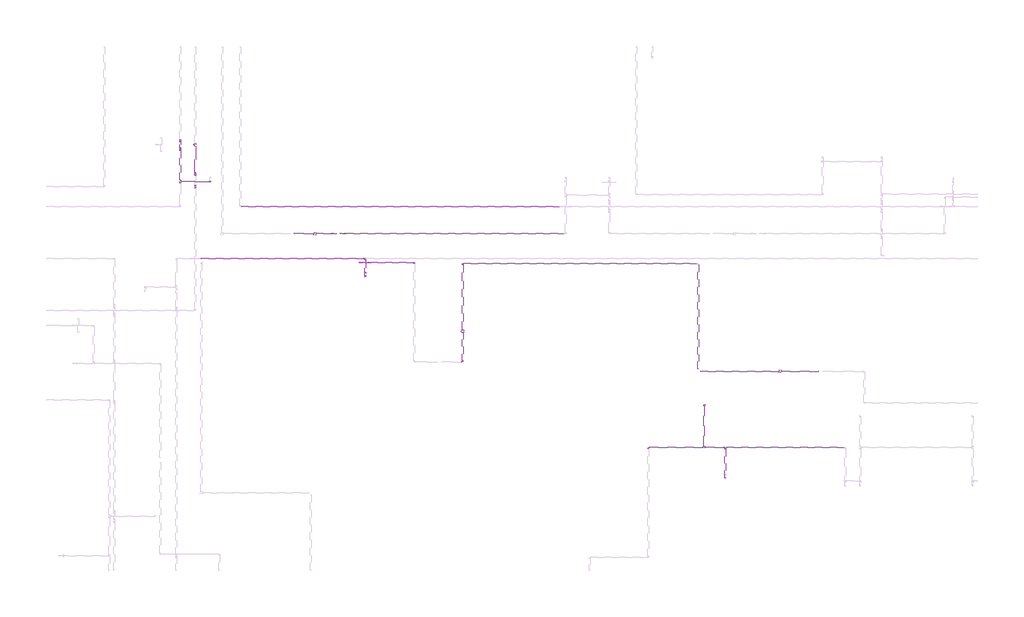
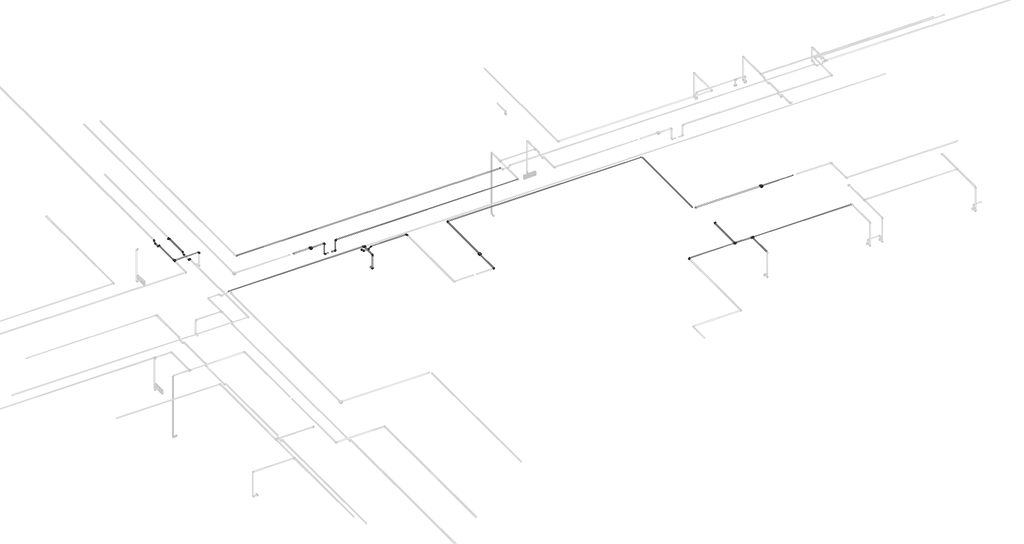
# One storey, part 25 of 40: 35 cable carrier segments, 29 cable carrier fittings, 3 alarms.
"""IFC4 building model written with IfcOpenShell, lengths in millimetres."""

from ifc_helpers import new_model, si_unit, point, frame, frame_2d, origin, place, context, project, spatial, circle_curve, trimmed, segment, composite_curve, outline, extrude, transform, mapped, element, save
from components import alarm_a2247946, cable_carrier_fitting_69f1a801, cable_carrier_fitting_8122f9af, cable_carrier_fitting_75c703e7, cable_carrier_fitting_29dedce4, cable_carrier_fitting_42b93bf5, cable_carrier_fitting_746188a3, cable_carrier_fitting_a14a04ee, cable_carrier_fitting_8fd13dfc

model = new_model("IFC4")

# Units and contexts
model_context = context("Model", 3, world=origin())
ifc_project = project(units=[si_unit("LENGTHUNIT", "METRE", prefix="MILLI")], contexts=[model_context])

# Site, building, storey
site = spatial("IfcSite", under=ifc_project)
building = spatial("IfcBuilding", under=site)
storey = spatial("IfcBuildingStorey", under=building, Name="1 этаж", Elevation=0.0)

# Alarms
placement = place(None, origin())
alarm_shape = alarm_a2247946(model_context)
element("IfcAlarm", 1, ObjectType="RBZ_ИзоляторШлейфа_Рубеж_ИЗ-1_прот.R3(плоскость) : ИЗ-1 прот.R3", at=placement, inside=storey, context=model_context, shape_type="MappedRepresentation", body=[
    mapped(alarm_shape, transform((-1014.8240021, 2144.6370072, 3200.7533502), x_axis=(1.0, 0.0, 0.0), y_axis=(0.0, 1.0, 0.0), z_axis=(0.0, 0.0, 1.0))),
])
element("IfcAlarm", 2, ObjectType="RBZ_ИзоляторШлейфа_Рубеж_ИЗ-1_прот.R3(плоскость) : ИЗ-1 прот.R3", at=placement, inside=storey, context=model_context, shape_type="MappedRepresentation", body=[
    mapped(alarm_shape, transform((-7872.3240986, 3014.6370105, 3200.7500856), x_axis=(1.0, 0.0, 0.0), y_axis=(0.0, 1.0, 0.0), z_axis=(0.0, 0.0, 1.0))),
])
element("IfcAlarm", 3, ObjectType="RBZ_ИзоляторШлейфа_Рубеж_ИЗ-1_прот.R3(плоскость) : ИЗ-1 прот.R3", at=placement, inside=storey, context=model_context, shape_type="MappedRepresentation", body=[
    mapped(alarm_shape, transform((-11062.3240021, 5122.1370105, 3200.05), x_axis=(1.0, 0.0, 0.0), y_axis=(0.0, 1.0, 0.0), z_axis=(0.0, 0.0, 1.0))),
])

# Cable carrier fittings
cable_carrier_fitting_shape = cable_carrier_fitting_69f1a801(model_context)
element("IfcCableCarrierFitting", 4, ObjectType="ADSK_Поворот_Минимальный размер : Неспецифицируемый", at=placement, inside=storey, context=model_context, shape_type="MappedRepresentation", body=[
    mapped(cable_carrier_fitting_shape, transform((-7872.3240986, 4479.5908077, 3190.0000816), x_axis=(-0.9999999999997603, 0.0, -6.924766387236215e-07), y_axis=(0.0, -0.9999999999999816, 1.9269883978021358e-07), z_axis=(-6.924766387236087e-07, 1.9269883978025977e-07, 0.9999999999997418))),
])
element("IfcCableCarrierFitting", 5, ObjectType="ADSK_Поворот_Минимальный размер : Неспецифицируемый", at=placement, inside=storey, context=model_context, shape_type="MappedRepresentation", body=[
    mapped(cable_carrier_fitting_shape, transform((-7872.3240986, 2348.1370105, 3190.0000856), x_axis=(1.0, 0.0, 0.0), y_axis=(0.0, 1.0, 0.0), z_axis=(0.0, 0.0, 1.0))),
])
element("IfcCableCarrierFitting", 6, ObjectType="ADSK_Поворот_Минимальный размер : Неспецифицируемый", at=placement, inside=storey, context=model_context, shape_type="MappedRepresentation", body=[
    mapped(cable_carrier_fitting_shape, transform((-10706.8253162, 5122.1370105, 2891.5753772), x_axis=(-1.0, 0.0, 0.0), y_axis=(0.0, 0.0, 1.0), z_axis=(0.0, 1.0, 0.0))),
])
element("IfcCableCarrierFitting", 7, ObjectType="ADSK_Поворот_Минимальный размер : Неспецифицируемый", at=placement, inside=storey, context=model_context, shape_type="MappedRepresentation", body=[
    mapped(cable_carrier_fitting_shape, transform((-10706.8253162, 5122.1370105, 3189.3), x_axis=(0.0, 0.0, 1.0), y_axis=(-1.0, 0.0, 0.0), z_axis=(0.0, -1.0, 0.0))),
])
element("IfcCableCarrierFitting", 8, ObjectType="ADSK_Поворот_Минимальный размер : Неспецифицируемый", at=placement, inside=storey, context=model_context, shape_type="MappedRepresentation", body=[
    mapped(cable_carrier_fitting_shape, transform((-10419.425705, 5122.1370105, 2891.5753772), x_axis=(1.0, 0.0, 0.0), y_axis=(0.0, 0.0, 1.0), z_axis=(0.0, -1.0, 0.0))),
])
element("IfcCableCarrierFitting", 9, ObjectType="ADSK_Поворот_Минимальный размер : Неспецифицируемый", at=placement, inside=storey, context=model_context, shape_type="MappedRepresentation", body=[
    mapped(cable_carrier_fitting_shape, transform((-10419.425705, 5122.1370105, 3189.3), x_axis=(0.0, 0.0, 1.0), y_axis=(1.0, 0.0, 0.0), z_axis=(0.0, 1.0, 0.0))),
])
element("IfcCableCarrierFitting", 10, ObjectType="ADSK_Поворот_Минимальный размер : Неспецифицируемый", at=placement, inside=storey, context=model_context, shape_type="MappedRepresentation", body=[
    mapped(cable_carrier_fitting_shape, transform((-9982.3240021, 4197.4372049, 2797.4861504), x_axis=(0.0, -1.0, 0.0), y_axis=(0.0, 0.0, 1.0), z_axis=(-1.0, 0.0, 0.0))),
])
element("IfcCableCarrierFitting", 11, ObjectType="ADSK_Поворот_Минимальный размер : Неспецифицируемый", at=placement, inside=storey, context=model_context, shape_type="MappedRepresentation", body=[
    mapped(cable_carrier_fitting_shape, transform((-9982.3240021, 4197.4372049, 3180.0), x_axis=(0.0, 0.0, 1.0), y_axis=(0.0, 1.0, 0.0), z_axis=(-1.0, 0.0, 0.0))),
])
element("IfcCableCarrierFitting", 12, ObjectType="ADSK_Поворот_Минимальный размер : Неспецифицируемый", at=placement, inside=storey, context=model_context, shape_type="MappedRepresentation", body=[
    mapped(cable_carrier_fitting_shape, transform((-8918.8240021, 4494.6370105, 3190.0000856), x_axis=(0.0, 1.0, 0.0), y_axis=(-1.0, 0.0, 0.0), z_axis=(0.0, 0.0, 1.0))),
])
element("IfcCableCarrierFitting", 13, ObjectType="ADSK_Поворот_Минимальный размер : Неспецифицируемый", at=placement, inside=storey, context=model_context, shape_type="MappedRepresentation", body=[
    mapped(cable_carrier_fitting_shape, transform((-2654.8240021, 1419.6370105, 3187.0), x_axis=(-1.0, 0.0, 0.0), y_axis=(0.0, -1.0, 0.0), z_axis=(0.0, 0.0, 1.0))),
])
element("IfcCableCarrierFitting", 14, ObjectType="ADSK_Поворот_Минимальный размер : Неспецифицируемый", at=placement, inside=storey, context=model_context, shape_type="MappedRepresentation", body=[
    mapped(cable_carrier_fitting_shape, transform((-3859.8800716, 494.6370105, 3187.0), x_axis=(-1.0, 0.0, 0.0), y_axis=(0.0, -1.0, 0.0), z_axis=(0.0, 0.0, 1.0))),
])
element("IfcCableCarrierFitting", 15, ObjectType="ADSK_Поворот_Минимальный размер : Неспецифицируемый", at=placement, inside=storey, context=model_context, shape_type="MappedRepresentation", body=[
    mapped(cable_carrier_fitting_shape, transform((-13329.8240021, 6252.4372049, 3180.0), x_axis=(0.0, 0.0, 1.0), y_axis=(-1.0, 0.0, 0.0), z_axis=(0.0, -1.0, 0.0))),
])
cable_carrier_fitting_2_shape = cable_carrier_fitting_8122f9af(model_context)
element("IfcCableCarrierFitting", 16, ObjectType="ADSK_Поворот_Минимальный размер : Неспецифицируемый", at=placement, inside=storey, context=model_context, shape_type="MappedRepresentation", body=[
    mapped(cable_carrier_fitting_2_shape, transform((-13982.3240021, 6930.5647592, 3180.0), x_axis=(0.0, 1.0, 0.0), y_axis=(0.0, 0.0, -1.0), z_axis=(-1.0, 0.0, 0.0))),
])
element("IfcCableCarrierFitting", 17, ObjectType="ADSK_Поворот_Минимальный размер : Неспецифицируемый", at=placement, inside=storey, context=model_context, shape_type="MappedRepresentation", body=[
    mapped(cable_carrier_fitting_2_shape, transform((-13982.3240021, 6980.5647592, 3130.0), x_axis=(0.0, 0.707106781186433, -0.7071067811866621), y_axis=(0.0, 0.7071067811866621, 0.707106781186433), z_axis=(1.0, 0.0, 0.0))),
])
element("IfcCableCarrierFitting", 18, ObjectType="ADSK_Поворот_Минимальный размер : Неспецифицируемый", at=placement, inside=storey, context=model_context, shape_type="MappedRepresentation", body=[
    mapped(cable_carrier_fitting_2_shape, transform((-13982.3240021, 7113.7093017, 3130.0), x_axis=(0.0, 1.0, 0.0), y_axis=(0.0, 0.0, 1.0), z_axis=(1.0, 0.0, 0.0))),
])
element("IfcCableCarrierFitting", 19, ObjectType="ADSK_Поворот_Минимальный размер : Неспецифицируемый", at=placement, inside=storey, context=model_context, shape_type="MappedRepresentation", body=[
    mapped(cable_carrier_fitting_2_shape, transform((-13982.3240021, 7163.7093017, 3180.0), x_axis=(0.0, 0.7071067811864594, 0.7071067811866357), y_axis=(0.0, 0.7071067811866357, -0.7071067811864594), z_axis=(-1.0, 0.0, 0.0))),
])
element("IfcCableCarrierFitting", 20, ObjectType="ADSK_Поворот_Минимальный размер : Неспецифицируемый", at=placement, inside=storey, context=model_context, shape_type="MappedRepresentation", body=[
    mapped(cable_carrier_fitting_2_shape, transform((-9915.7517309, 4494.6370105, 3140.0000856), x_axis=(-0.707106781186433, 0.0, -0.7071067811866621), y_axis=(-0.7071067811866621, 0.0, 0.707106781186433), z_axis=(0.0, 1.0, 0.0))),
])
element("IfcCableCarrierFitting", 21, ObjectType="ADSK_Поворот_Минимальный размер : Неспецифицируемый", at=placement, inside=storey, context=model_context, shape_type="MappedRepresentation", body=[
    mapped(cable_carrier_fitting_2_shape, transform((-10048.8962734, 4494.6370105, 3140.0000856), x_axis=(-1.0, 0.0, 0.0), y_axis=(0.0, 0.0, 1.0), z_axis=(0.0, 1.0, 0.0))),
])
element("IfcCableCarrierFitting", 22, ObjectType="ADSK_Поворот_Минимальный размер : Неспецифицируемый", at=placement, inside=storey, context=model_context, shape_type="MappedRepresentation", body=[
    mapped(cable_carrier_fitting_2_shape, transform((-9865.7517309, 4494.6370105, 3190.0000856), x_axis=(0.7071067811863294, 0.0, 0.7071067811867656), y_axis=(0.7071067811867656, 0.0, -0.7071067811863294), z_axis=(0.0, 1.0, 0.0))),
])
cable_carrier_fitting_3_shape = cable_carrier_fitting_75c703e7(model_context)
element("IfcCableCarrierFitting", 23, ObjectType="ADSK_Поворот_Минимальный размер : Неспецифицируемый", at=placement, inside=storey, context=model_context, shape_type="MappedRepresentation", body=[
    mapped(cable_carrier_fitting_3_shape, transform((-13652.3240113, 6163.0811795, 3139.901458), x_axis=(0.0, 0.7071067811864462, -0.7071067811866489), y_axis=(0.0, 0.7071067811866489, 0.7071067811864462), z_axis=(1.0, 0.0, 0.0))),
])
cable_carrier_fitting_4_shape = cable_carrier_fitting_29dedce4(model_context)
element("IfcCableCarrierFitting", 24, ObjectType="ADSK_Поворот_Минимальный размер : Неспецифицируемый", at=placement, inside=storey, context=model_context, shape_type="MappedRepresentation", body=[
    mapped(cable_carrier_fitting_4_shape, transform((-13652.3240113, 6385.7383006, 3139.5554765), x_axis=(0.0, 0.9999987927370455, -0.0015538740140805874), y_axis=(0.0, 0.0015538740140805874, 0.9999987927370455), z_axis=(1.0, 0.0, 0.0))),
])
cable_carrier_fitting_5_shape = cable_carrier_fitting_42b93bf5(model_context)
element("IfcCableCarrierFitting", 25, ObjectType="ADSK_Поворот_Минимальный размер : Неспецифицируемый", at=placement, inside=storey, context=model_context, shape_type="MappedRepresentation", body=[
    mapped(cable_carrier_fitting_5_shape, transform((-13652.3240113, 6435.3963596, 3189.2428534), x_axis=(0.0, 0.7068980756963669, 0.7073154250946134), y_axis=(0.0, 0.7073154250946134, -0.7068980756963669), z_axis=(-1.0, 0.0, 0.0))),
])
cable_carrier_fitting_6_shape = cable_carrier_fitting_746188a3(model_context)
element("IfcCableCarrierFitting", 26, ObjectType="ADSK_Поворот_Минимальный размер : Неспецифицируемый", at=placement, inside=storey, context=model_context, shape_type="MappedRepresentation", body=[
    mapped(cable_carrier_fitting_6_shape, transform((-13652.3240113, 6113.5934916, 3189.389146), x_axis=(0.0, -0.7071067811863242, 0.707106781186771), y_axis=(0.0, -0.707106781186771, -0.7071067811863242), z_axis=(1.0, 0.0, 0.0))),
])
cable_carrier_fitting_7_shape = cable_carrier_fitting_a14a04ee(model_context)
element("IfcCableCarrierFitting", 27, ObjectType="ADSK_Поворот_Минимальный размер : Неспецифицируемый", at=placement, inside=storey, context=model_context, shape_type="MappedRepresentation", body=[
    mapped(cable_carrier_fitting_7_shape, transform((-10098.8962734, 4494.6370105, 3190.0000856), x_axis=(-0.7071067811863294, 0.0, 0.7071067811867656), y_axis=(-0.7071067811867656, 0.0, -0.7071067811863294), z_axis=(0.0, -1.0, 0.0))),
])
cable_carrier_fitting_8_shape = cable_carrier_fitting_8fd13dfc(model_context)
element("IfcCableCarrierFitting", 28, ObjectType="ADSK_Тройник : ПВХ", at=placement, inside=storey, context=model_context, shape_type="MappedRepresentation", body=[
    mapped(cable_carrier_fitting_8_shape, transform((-13652.3240113, 7047.1370299, 3189.2381641), x_axis=(0.0, -0.999999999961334, 8.793864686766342e-06), y_axis=(1.0000000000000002, 0.0, 0.0), z_axis=(0.0, 8.793864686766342e-06, 0.999999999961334))),
])
element("IfcCableCarrierFitting", 29, ObjectType="ADSK_Тройник : ПВХ", at=placement, inside=storey, context=model_context, shape_type="MappedRepresentation", body=[
    mapped(cable_carrier_fitting_8_shape, transform((-2197.3240021, 494.6370105, 3187.0), x_axis=(1.0, 0.0, 0.0), y_axis=(0.0, 1.0, 0.0), z_axis=(0.0, 0.0, 1.0))),
])
element("IfcCableCarrierFitting", 30, ObjectType="ADSK_Тройник : ПВХ", at=placement, inside=storey, context=model_context, shape_type="MappedRepresentation", body=[
    mapped(cable_carrier_fitting_8_shape, transform((-9982.3240021, 4582.0648158, 3180.0), x_axis=(1.0, 0.0, 0.0), y_axis=(0.0, 1.0, 0.0), z_axis=(0.0, 0.0, 1.0))),
])
element("IfcCableCarrierFitting", 31, ObjectType="ADSK_Тройник : ПВХ", at=placement, inside=storey, context=model_context, shape_type="MappedRepresentation", body=[
    mapped(cable_carrier_fitting_8_shape, transform((-2654.8240021, 494.6370105, 3187.0), x_axis=(-1.0, 0.0, 0.0), y_axis=(0.0, -1.0, 0.0), z_axis=(0.0, 0.0, 1.0))),
])
element("IfcCableCarrierFitting", 32, ObjectType="ADSK_Тройник : ПВХ", at=placement, inside=storey, context=model_context, shape_type="MappedRepresentation", body=[
    mapped(cable_carrier_fitting_8_shape, transform((-13982.3240021, 6252.4372049, 3180.0), x_axis=(0.0, 1.0, 0.0), y_axis=(-1.0, 0.0, 0.0), z_axis=(0.0, 0.0, 1.0))),
])

# Cable carrier segments
element("IfcCableCarrierSegment", 33, ObjectType="Гофрированная труба", at=placement, inside=storey, context=model_context, shape_type="SweptSolid", body=[
    extrude(outline(composite_curve([segment(trimmed(circle_curve(frame_2d((3190.0000856, -7872.3240986)), 10.0), [point((3190.0000787, -7882.3240986))], [point((3180.0000856, -7872.3240917))], False, "CARTESIAN"), True, "CONTINUOUS"), segment(trimmed(circle_curve(frame_2d((3190.0000856, -7872.3240986)), 10.0), [point((3180.0000856, -7872.3240917))], [point((3190.0000926, -7862.3240986))], False, "CARTESIAN"), True, "CONTINUOUS"), segment(trimmed(circle_curve(frame_2d((3190.0000856, -7872.3240986)), 10.0), [point((3190.0000926, -7862.3240986))], [point((3200.0000856, -7872.3241056))], False, "CARTESIAN"), True, "CONTINUOUS"), segment(trimmed(circle_curve(frame_2d((3190.0000856, -7872.3240986)), 10.0), [point((3200.0000856, -7872.3241056))], [point((3190.0000787, -7882.3240986))], False, "CARTESIAN"), True, "CONTINUOUS")], self_intersect=False)), frame((0.0, 3040.6370105, 0.0), z_axis=(0.0, 1.0, 0.0), x_axis=(0.0, 0.0, 1.0)), (0.0, 0.0, 1.0), 1417.9537972),
])
element("IfcCableCarrierSegment", 34, ObjectType="Гофрированная труба", at=placement, inside=storey, context=model_context, shape_type="SweptSolid", body=[
    extrude(outline(composite_curve([segment(trimmed(circle_curve(frame_2d((3190.0033502, -2782.8240025)), 10.0), [point((3190.0033433, -2792.8240025))], [point((3180.0033502, -2782.8239956))], False, "CARTESIAN"), True, "CONTINUOUS"), segment(trimmed(circle_curve(frame_2d((3190.0033502, -2782.8240025)), 10.0), [point((3180.0033502, -2782.8239956))], [point((3190.0033571, -2772.8240025))], False, "CARTESIAN"), True, "CONTINUOUS"), segment(trimmed(circle_curve(frame_2d((3190.0033502, -2782.8240025)), 10.0), [point((3190.0033571, -2772.8240025))], [point((3200.0033502, -2782.8240095))], False, "CARTESIAN"), True, "CONTINUOUS"), segment(trimmed(circle_curve(frame_2d((3190.0033502, -2782.8240025)), 10.0), [point((3200.0033502, -2782.8240095))], [point((3190.0033433, -2792.8240025))], False, "CARTESIAN"), True, "CONTINUOUS")], self_intersect=False)), frame((0.0, 2191.1370072, 0.0), z_axis=(0.0, 1.0, 0.0), x_axis=(0.0, 0.0, 1.0)), (0.0, 0.0, 1.0), 2267.4538005),
])
element("IfcCableCarrierSegment", 35, ObjectType="Гофрированная труба", at=placement, inside=storey, context=model_context, shape_type="SweptSolid", body=[
    extrude(outline(composite_curve([segment(trimmed(circle_curve(frame_2d((0.0, 10.0)), 10.0), [point((-10.0, 10.0))], [point((0.0, 20.0))], False, "CARTESIAN"), True, "CONTINUOUS"), segment(trimmed(circle_curve(frame_2d((0.0, 10.0)), 10.0), [point((0.0, 20.0))], [point((10.0, 10.0))], False, "CARTESIAN"), True, "CONTINUOUS"), segment(trimmed(circle_curve(frame_2d((0.0, 10.0)), 10.0), [point((10.0, 10.0))], [point((0.0, 0.0))], False, "CARTESIAN"), True, "CONTINUOUS"), segment(trimmed(circle_curve(frame_2d((0.0, 10.0)), 10.0), [point((0.0, 0.0))], [point((-10.0, 10.0))], False, "CARTESIAN"), True, "CONTINUOUS")], self_intersect=False)), frame((-7851.3240917, 4479.5908077, 3180.0000961), z_axis=(0.9999999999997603, 0.0, 6.924766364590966e-07), x_axis=(0.0, 1.0, 0.0)), (0.0, 0.0, 1.0), 5047.5000961),
])
element("IfcCableCarrierSegment", 36, ObjectType="Гофрированная труба", at=placement, inside=storey, context=model_context, shape_type="SweptSolid", body=[
    extrude(outline(composite_curve([segment(trimmed(circle_curve(frame_2d((2144.6370072, 3190.0033502)), 10.0), [point((2134.6370072, 3190.0033502))], [point((2144.6370072, 3200.0033502))], False, "CARTESIAN"), True, "CONTINUOUS"), segment(trimmed(circle_curve(frame_2d((2144.6370072, 3190.0033502)), 10.0), [point((2144.6370072, 3200.0033502))], [point((2154.6370072, 3190.0033502))], False, "CARTESIAN"), True, "CONTINUOUS"), segment(trimmed(circle_curve(frame_2d((2144.6370072, 3190.0033502)), 10.0), [point((2154.6370072, 3190.0033502))], [point((2144.6370072, 3180.0033502))], False, "CARTESIAN"), True, "CONTINUOUS"), segment(trimmed(circle_curve(frame_2d((2144.6370072, 3190.0033502)), 10.0), [point((2144.6370072, 3180.0033502))], [point((2134.6370072, 3190.0033502))], False, "CARTESIAN"), True, "CONTINUOUS")], self_intersect=False)), frame((-2736.3240025, 0.0, 0.0), z_axis=(1.0, 0.0, 0.0), x_axis=(0.0, 1.0, 0.0)), (0.0, 0.0, 1.0), 1695.5000004),
])
element("IfcCableCarrierSegment", 37, ObjectType="Гофрированная труба", at=placement, inside=storey, context=model_context, shape_type="SweptSolid", body=[
    extrude(outline(composite_curve([segment(trimmed(circle_curve(frame_2d((2144.6370072, 3190.0033502)), 10.0), [point((2154.6370072, 3190.0033502))], [point((2144.6370072, 3180.0033502))], False, "CARTESIAN"), True, "CONTINUOUS"), segment(trimmed(circle_curve(frame_2d((2144.6370072, 3190.0033502)), 10.0), [point((2144.6370072, 3180.0033502))], [point((2134.6370072, 3190.0033502))], False, "CARTESIAN"), True, "CONTINUOUS"), segment(trimmed(circle_curve(frame_2d((2144.6370072, 3190.0033502)), 10.0), [point((2134.6370072, 3190.0033502))], [point((2144.6370072, 3200.0033502))], False, "CARTESIAN"), True, "CONTINUOUS"), segment(trimmed(circle_curve(frame_2d((2144.6370072, 3190.0033502)), 10.0), [point((2144.6370072, 3200.0033502))], [point((2154.6370072, 3190.0033502))], False, "CARTESIAN"), True, "CONTINUOUS")], self_intersect=False)), frame((-988.8240021, 0.0, 0.0), z_axis=(1.0, 0.0, 0.0), x_axis=(0.0, 1.0, 0.0)), (0.0, 0.0, 1.0), 807.5),
])
element("IfcCableCarrierSegment", 38, ObjectType="Гофрированная труба", at=placement, inside=storey, context=model_context, shape_type="SweptSolid", body=[
    extrude(outline(composite_curve([segment(trimmed(circle_curve(frame_2d((4494.6370105, 3140.0000856)), 10.0), [point((4504.6370105, 3140.0000856))], [point((4494.6370105, 3130.0000856))], False, "CARTESIAN"), True, "CONTINUOUS"), segment(trimmed(circle_curve(frame_2d((4494.6370105, 3140.0000856)), 10.0), [point((4494.6370105, 3130.0000856))], [point((4484.6370105, 3140.0000856))], False, "CARTESIAN"), True, "CONTINUOUS"), segment(trimmed(circle_curve(frame_2d((4494.6370105, 3140.0000856)), 10.0), [point((4484.6370105, 3140.0000856))], [point((4494.6370105, 3150.0000856))], False, "CARTESIAN"), True, "CONTINUOUS"), segment(trimmed(circle_curve(frame_2d((4494.6370105, 3140.0000856)), 10.0), [point((4494.6370105, 3150.0000856))], [point((4504.6370105, 3140.0000856))], False, "CARTESIAN"), True, "CONTINUOUS")], self_intersect=False)), frame((-10039.6120021, 0.0, 0.0), z_axis=(1.0, 0.0, 0.0), x_axis=(0.0, 1.0, 0.0)), (0.0, 0.0, 1.0), 114.576),
])
element("IfcCableCarrierSegment", 39, ObjectType="Гофрированная труба", at=placement, inside=storey, context=model_context, shape_type="SweptSolid", body=[
    extrude(outline(composite_curve([segment(trimmed(circle_curve(frame_2d((3190.0000856, -7872.3240986)), 10.0), [point((3190.0000856, -7862.3240986))], [point((3200.0000856, -7872.3240986))], False, "CARTESIAN"), True, "CONTINUOUS"), segment(trimmed(circle_curve(frame_2d((3190.0000856, -7872.3240986)), 10.0), [point((3200.0000856, -7872.3240986))], [point((3190.0000856, -7882.3240986))], False, "CARTESIAN"), True, "CONTINUOUS"), segment(trimmed(circle_curve(frame_2d((3190.0000856, -7872.3240986)), 10.0), [point((3190.0000856, -7882.3240986))], [point((3180.0000856, -7872.3240986))], False, "CARTESIAN"), True, "CONTINUOUS"), segment(trimmed(circle_curve(frame_2d((3190.0000856, -7872.3240986)), 10.0), [point((3180.0000856, -7872.3240986))], [point((3190.0000856, -7862.3240986))], False, "CARTESIAN"), True, "CONTINUOUS")], self_intersect=False)), frame((0.0, 2369.1370105, 0.0), z_axis=(0.0, 1.0, 0.0), x_axis=(0.0, 0.0, 1.0)), (0.0, 0.0, 1.0), 619.5),
])
element("IfcCableCarrierSegment", 40, ObjectType="Гофрированная труба", at=placement, inside=storey, context=model_context, shape_type="SweptSolid", body=[
    extrude(outline(composite_curve([segment(trimmed(circle_curve(frame_2d((5122.1370105, 3189.3)), 10.0), [point((5132.1370105, 3189.3))], [point((5122.1370105, 3179.3))], False, "CARTESIAN"), True, "CONTINUOUS"), segment(trimmed(circle_curve(frame_2d((5122.1370105, 3189.3)), 10.0), [point((5122.1370105, 3179.3))], [point((5112.1370105, 3189.3))], False, "CARTESIAN"), True, "CONTINUOUS"), segment(trimmed(circle_curve(frame_2d((5122.1370105, 3189.3)), 10.0), [point((5112.1370105, 3189.3))], [point((5122.1370105, 3199.3))], False, "CARTESIAN"), True, "CONTINUOUS"), segment(trimmed(circle_curve(frame_2d((5122.1370105, 3189.3)), 10.0), [point((5122.1370105, 3199.3))], [point((5132.1370105, 3189.3))], False, "CARTESIAN"), True, "CONTINUOUS")], self_intersect=False)), frame((-11518.3240021, 0.0, 0.0), z_axis=(1.0, 0.0, 0.0), x_axis=(0.0, 1.0, 0.0)), (0.0, 0.0, 1.0), 430.0),
])
element("IfcCableCarrierSegment", 41, ObjectType="Гофрированная труба", at=placement, inside=storey, context=model_context, shape_type="SweptSolid", body=[
    extrude(outline(composite_curve([segment(trimmed(circle_curve(frame_2d((5122.1370105, 3189.3)), 10.0), [point((5132.1370105, 3189.3))], [point((5122.1370105, 3179.3))], False, "CARTESIAN"), True, "CONTINUOUS"), segment(trimmed(circle_curve(frame_2d((5122.1370105, 3189.3)), 10.0), [point((5122.1370105, 3179.3))], [point((5112.1370105, 3189.3))], False, "CARTESIAN"), True, "CONTINUOUS"), segment(trimmed(circle_curve(frame_2d((5122.1370105, 3189.3)), 10.0), [point((5112.1370105, 3189.3))], [point((5122.1370105, 3199.3))], False, "CARTESIAN"), True, "CONTINUOUS"), segment(trimmed(circle_curve(frame_2d((5122.1370105, 3189.3)), 10.0), [point((5122.1370105, 3199.3))], [point((5132.1370105, 3189.3))], False, "CARTESIAN"), True, "CONTINUOUS")], self_intersect=False)), frame((-11036.3240021, 0.0, 0.0), z_axis=(1.0, 0.0, 0.0), x_axis=(0.0, 1.0, 0.0)), (0.0, 0.0, 1.0), 308.4986859),
])
element("IfcCableCarrierSegment", 42, ObjectType="Гофрированная труба", at=placement, inside=storey, context=model_context, shape_type="SweptSolid", body=[
    extrude(outline(composite_curve([segment(trimmed(circle_curve(frame_2d((5122.1370105, 2891.5753772)), 10.0), [point((5132.1370105, 2891.5753772))], [point((5122.1370105, 2881.5753772))], False, "CARTESIAN"), True, "CONTINUOUS"), segment(trimmed(circle_curve(frame_2d((5122.1370105, 2891.5753772)), 10.0), [point((5122.1370105, 2881.5753772))], [point((5112.1370105, 2891.5753772))], False, "CARTESIAN"), True, "CONTINUOUS"), segment(trimmed(circle_curve(frame_2d((5122.1370105, 2891.5753772)), 10.0), [point((5112.1370105, 2891.5753772))], [point((5122.1370105, 2901.5753772))], False, "CARTESIAN"), True, "CONTINUOUS"), segment(trimmed(circle_curve(frame_2d((5122.1370105, 2891.5753772)), 10.0), [point((5122.1370105, 2901.5753772))], [point((5132.1370105, 2891.5753772))], False, "CARTESIAN"), True, "CONTINUOUS")], self_intersect=False)), frame((-10685.8253162, 0.0, 0.0), z_axis=(1.0, 0.0, 0.0), x_axis=(0.0, 1.0, 0.0)), (0.0, 0.0, 1.0), 76.1998056),
])
element("IfcCableCarrierSegment", 43, ObjectType="Гофрированная труба", at=placement, inside=storey, context=model_context, shape_type="SweptSolid", body=[
    extrude(outline(composite_curve([segment(trimmed(circle_curve(frame_2d((-10706.8253162, 5122.1370105)), 10.0), [point((-10716.8253162, 5122.1370105))], [point((-10706.8253162, 5132.1370105))], False, "CARTESIAN"), True, "CONTINUOUS"), segment(trimmed(circle_curve(frame_2d((-10706.8253162, 5122.1370105)), 10.0), [point((-10706.8253162, 5132.1370105))], [point((-10696.8253162, 5122.1370105))], False, "CARTESIAN"), True, "CONTINUOUS"), segment(trimmed(circle_curve(frame_2d((-10706.8253162, 5122.1370105)), 10.0), [point((-10696.8253162, 5122.1370105))], [point((-10706.8253162, 5112.1370105))], False, "CARTESIAN"), True, "CONTINUOUS"), segment(trimmed(circle_curve(frame_2d((-10706.8253162, 5122.1370105)), 10.0), [point((-10706.8253162, 5112.1370105))], [point((-10716.8253162, 5122.1370105))], False, "CARTESIAN"), True, "CONTINUOUS")], self_intersect=False)), frame((0.0, 0.0, 2912.5753772), z_axis=(0.0, 0.0, 1.0), x_axis=(1.0, 0.0, 0.0)), (0.0, 0.0, 1.0), 255.7246228),
])
element("IfcCableCarrierSegment", 44, ObjectType="Гофрированная труба", at=placement, inside=storey, context=model_context, shape_type="SweptSolid", body=[
    extrude(outline(composite_curve([segment(trimmed(circle_curve(frame_2d((5122.1370105, 2891.5753772)), 10.0), [point((5112.1370105, 2891.5753772))], [point((5122.1370105, 2901.5753772))], False, "CARTESIAN"), True, "CONTINUOUS"), segment(trimmed(circle_curve(frame_2d((5122.1370105, 2891.5753772)), 10.0), [point((5122.1370105, 2901.5753772))], [point((5132.1370105, 2891.5753772))], False, "CARTESIAN"), True, "CONTINUOUS"), segment(trimmed(circle_curve(frame_2d((5122.1370105, 2891.5753772)), 10.0), [point((5132.1370105, 2891.5753772))], [point((5122.1370105, 2881.5753772))], False, "CARTESIAN"), True, "CONTINUOUS"), segment(trimmed(circle_curve(frame_2d((5122.1370105, 2891.5753772)), 10.0), [point((5122.1370105, 2881.5753772))], [point((5112.1370105, 2891.5753772))], False, "CARTESIAN"), True, "CONTINUOUS")], self_intersect=False)), frame((-10516.6255106, 0.0, 0.0), z_axis=(1.0, 0.0, 0.0), x_axis=(0.0, 1.0, 0.0)), (0.0, 0.0, 1.0), 76.1998056),
])
element("IfcCableCarrierSegment", 45, ObjectType="Гофрированная труба", at=placement, inside=storey, context=model_context, shape_type="SweptSolid", body=[
    extrude(outline(composite_curve([segment(trimmed(circle_curve(frame_2d((-10419.425705, 5122.1370105)), 10.0), [point((-10429.425705, 5122.1370105))], [point((-10419.425705, 5132.1370105))], False, "CARTESIAN"), True, "CONTINUOUS"), segment(trimmed(circle_curve(frame_2d((-10419.425705, 5122.1370105)), 10.0), [point((-10419.425705, 5132.1370105))], [point((-10409.425705, 5122.1370105))], False, "CARTESIAN"), True, "CONTINUOUS"), segment(trimmed(circle_curve(frame_2d((-10419.425705, 5122.1370105)), 10.0), [point((-10409.425705, 5122.1370105))], [point((-10419.425705, 5112.1370105))], False, "CARTESIAN"), True, "CONTINUOUS"), segment(trimmed(circle_curve(frame_2d((-10419.425705, 5122.1370105)), 10.0), [point((-10419.425705, 5112.1370105))], [point((-10429.425705, 5122.1370105))], False, "CARTESIAN"), True, "CONTINUOUS")], self_intersect=False)), frame((0.0, 0.0, 2912.5753772), z_axis=(0.0, 0.0, 1.0), x_axis=(1.0, 0.0, 0.0)), (0.0, 0.0, 1.0), 255.7246228),
])
element("IfcCableCarrierSegment", 46, ObjectType="Гофрированная труба", at=placement, inside=storey, context=model_context, shape_type="SweptSolid", body=[
    extrude(outline(composite_curve([segment(trimmed(circle_curve(frame_2d((5122.1370105, 3189.3)), 10.0), [point((5112.1370105, 3189.3))], [point((5122.1370105, 3199.3))], False, "CARTESIAN"), True, "CONTINUOUS"), segment(trimmed(circle_curve(frame_2d((5122.1370105, 3189.3)), 10.0), [point((5122.1370105, 3199.3))], [point((5132.1370105, 3189.3))], False, "CARTESIAN"), True, "CONTINUOUS"), segment(trimmed(circle_curve(frame_2d((5122.1370105, 3189.3)), 10.0), [point((5132.1370105, 3189.3))], [point((5122.1370105, 3179.3))], False, "CARTESIAN"), True, "CONTINUOUS"), segment(trimmed(circle_curve(frame_2d((5122.1370105, 3189.3)), 10.0), [point((5122.1370105, 3179.3))], [point((5112.1370105, 3189.3))], False, "CARTESIAN"), True, "CONTINUOUS")], self_intersect=False)), frame((-10398.425705, 0.0, 0.0), z_axis=(1.0, 0.0, 0.0), x_axis=(0.0, 1.0, 0.0)), (0.0, 0.0, 1.0), 4737.6017029),
])
element("IfcCableCarrierSegment", 47, ObjectType="Гофрированная труба", at=placement, inside=storey, context=model_context, shape_type="SweptSolid", body=[
    extrude(outline(composite_curve([segment(trimmed(circle_curve(frame_2d((3187.0, -2197.3240021)), 10.0), [point((3187.0, -2187.3240021))], [point((3197.0, -2197.3240021))], False, "CARTESIAN"), True, "CONTINUOUS"), segment(trimmed(circle_curve(frame_2d((3187.0, -2197.3240021)), 10.0), [point((3197.0, -2197.3240021))], [point((3187.0, -2207.3240021))], False, "CARTESIAN"), True, "CONTINUOUS"), segment(trimmed(circle_curve(frame_2d((3187.0, -2197.3240021)), 10.0), [point((3187.0, -2207.3240021))], [point((3177.0, -2197.3240021))], False, "CARTESIAN"), True, "CONTINUOUS"), segment(trimmed(circle_curve(frame_2d((3187.0, -2197.3240021)), 10.0), [point((3177.0, -2197.3240021))], [point((3187.0, -2187.3240021))], False, "CARTESIAN"), True, "CONTINUOUS")], self_intersect=False)), frame((0.0, -158.5627951, 0.0), z_axis=(0.0, 1.0, 0.0), x_axis=(0.0, 0.0, 1.0)), (0.0, 0.0, 1.0), 623.1998056),
])
element("IfcCableCarrierSegment", 48, ObjectType="Гофрированная труба", at=placement, inside=storey, context=model_context, shape_type="SweptSolid", body=[
    extrude(outline(composite_curve([segment(trimmed(circle_curve(frame_2d((494.6370105, 3187.0)), 10.0), [point((504.6370105, 3187.0))], [point((494.6370105, 3177.0))], False, "CARTESIAN"), True, "CONTINUOUS"), segment(trimmed(circle_curve(frame_2d((494.6370105, 3187.0)), 10.0), [point((494.6370105, 3177.0))], [point((484.6370105, 3187.0))], False, "CARTESIAN"), True, "CONTINUOUS"), segment(trimmed(circle_curve(frame_2d((494.6370105, 3187.0)), 10.0), [point((484.6370105, 3187.0))], [point((494.6370105, 3197.0))], False, "CARTESIAN"), True, "CONTINUOUS"), segment(trimmed(circle_curve(frame_2d((494.6370105, 3187.0)), 10.0), [point((494.6370105, 3197.0))], [point((504.6370105, 3187.0))], False, "CARTESIAN"), True, "CONTINUOUS")], self_intersect=False)), frame((-2167.3240021, 0.0, 0.0), z_axis=(1.0, 0.0, 0.0), x_axis=(0.0, 1.0, 0.0)), (0.0, 0.0, 1.0), 2549.0),
])
element("IfcCableCarrierSegment", 49, ObjectType="Гофрированная труба", at=placement, inside=storey, context=model_context, shape_type="SweptSolid", body=[
    extrude(outline(composite_curve([segment(trimmed(circle_curve(frame_2d((3187.0, -2654.8240021)), 10.0), [point((3187.0, -2664.8240021))], [point((3177.0, -2654.8240021))], False, "CARTESIAN"), True, "CONTINUOUS"), segment(trimmed(circle_curve(frame_2d((3187.0, -2654.8240021)), 10.0), [point((3177.0, -2654.8240021))], [point((3187.0, -2644.8240021))], False, "CARTESIAN"), True, "CONTINUOUS"), segment(trimmed(circle_curve(frame_2d((3187.0, -2654.8240021)), 10.0), [point((3187.0, -2644.8240021))], [point((3197.0, -2654.8240021))], False, "CARTESIAN"), True, "CONTINUOUS"), segment(trimmed(circle_curve(frame_2d((3187.0, -2654.8240021)), 10.0), [point((3197.0, -2654.8240021))], [point((3187.0, -2664.8240021))], False, "CARTESIAN"), True, "CONTINUOUS")], self_intersect=False)), frame((0.0, 524.6370105, 0.0), z_axis=(0.0, 1.0, 0.0), x_axis=(0.0, 0.0, 1.0)), (0.0, 0.0, 1.0), 874.0),
])
element("IfcCableCarrierSegment", 50, ObjectType="Гофрированная труба", at=placement, inside=storey, context=model_context, shape_type="SweptSolid", body=[
    extrude(outline(composite_curve([segment(trimmed(circle_curve(frame_2d((494.6370105, 3187.0)), 10.0), [point((484.6370105, 3187.0))], [point((494.6370105, 3197.0))], False, "CARTESIAN"), True, "CONTINUOUS"), segment(trimmed(circle_curve(frame_2d((494.6370105, 3187.0)), 10.0), [point((494.6370105, 3197.0))], [point((504.6370105, 3187.0))], False, "CARTESIAN"), True, "CONTINUOUS"), segment(trimmed(circle_curve(frame_2d((494.6370105, 3187.0)), 10.0), [point((504.6370105, 3187.0))], [point((494.6370105, 3177.0))], False, "CARTESIAN"), True, "CONTINUOUS"), segment(trimmed(circle_curve(frame_2d((494.6370105, 3187.0)), 10.0), [point((494.6370105, 3177.0))], [point((484.6370105, 3187.0))], False, "CARTESIAN"), True, "CONTINUOUS")], self_intersect=False)), frame((-2624.8240021, 0.0, 0.0), z_axis=(1.0, 0.0, 0.0), x_axis=(0.0, 1.0, 0.0)), (0.0, 0.0, 1.0), 397.5),
])
element("IfcCableCarrierSegment", 51, ObjectType="Гофрированная труба", at=placement, inside=storey, context=model_context, shape_type="SweptSolid", body=[
    extrude(outline(composite_curve([segment(trimmed(circle_curve(frame_2d((3130.0, -13982.3240021)), 10.0), [point((3130.0, -13972.3240021))], [point((3140.0, -13982.3240021))], False, "CARTESIAN"), True, "CONTINUOUS"), segment(trimmed(circle_curve(frame_2d((3130.0, -13982.3240021)), 10.0), [point((3140.0, -13982.3240021))], [point((3130.0, -13992.3240021))], False, "CARTESIAN"), True, "CONTINUOUS"), segment(trimmed(circle_curve(frame_2d((3130.0, -13982.3240021)), 10.0), [point((3130.0, -13992.3240021))], [point((3120.0, -13982.3240021))], False, "CARTESIAN"), True, "CONTINUOUS"), segment(trimmed(circle_curve(frame_2d((3130.0, -13982.3240021)), 10.0), [point((3120.0, -13982.3240021))], [point((3130.0, -13972.3240021))], False, "CARTESIAN"), True, "CONTINUOUS")], self_intersect=False)), frame((0.0, 6989.8490305, 0.0), z_axis=(0.0, 1.0, 0.0), x_axis=(0.0, 0.0, 1.0)), (0.0, 0.0, 1.0), 114.576),
])
element("IfcCableCarrierSegment", 52, ObjectType="Гофрированная труба", at=placement, inside=storey, context=model_context, shape_type="SweptSolid", body=[
    extrude(outline(composite_curve([segment(trimmed(circle_curve(frame_2d((0.0, -10.0)), 10.0), [point((0.0, -20.0))], [point((-10.0, -10.0))], False, "CARTESIAN"), True, "CONTINUOUS"), segment(trimmed(circle_curve(frame_2d((0.0, -10.0)), 10.0), [point((-10.0, -10.0))], [point((0.0, 0.0))], False, "CARTESIAN"), True, "CONTINUOUS"), segment(trimmed(circle_curve(frame_2d((0.0, -10.0)), 10.0), [point((0.0, 0.0))], [point((10.0, -10.0))], False, "CARTESIAN"), True, "CONTINUOUS"), segment(trimmed(circle_curve(frame_2d((0.0, -10.0)), 10.0), [point((10.0, -10.0))], [point((0.0, -20.0))], False, "CARTESIAN"), True, "CONTINUOUS")], self_intersect=False)), frame((-13662.3240113, 7017.1370299, 3189.2384279), z_axis=(0.0, -0.999999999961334, 8.793864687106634e-06), x_axis=(0.0, 8.793864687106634e-06, 0.999999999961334)), (0.0, 0.0, 1.0), 572.4537093),
])
element("IfcCableCarrierSegment", 53, ObjectType="Гофрированная труба", at=placement, inside=storey, context=model_context, shape_type="SweptSolid", body=[
    extrude(outline(composite_curve([segment(trimmed(circle_curve(frame_2d((0.0, 10.0)), 10.0), [point((10.0, 10.0))], [point((0.0, 0.0))], False, "CARTESIAN"), True, "CONTINUOUS"), segment(trimmed(circle_curve(frame_2d((0.0, 10.0)), 10.0), [point((0.0, 0.0))], [point((-10.0, 10.0))], False, "CARTESIAN"), True, "CONTINUOUS"), segment(trimmed(circle_curve(frame_2d((0.0, 10.0)), 10.0), [point((-10.0, 10.0))], [point((0.0, 20.0))], False, "CARTESIAN"), True, "CONTINUOUS"), segment(trimmed(circle_curve(frame_2d((0.0, 10.0)), 10.0), [point((0.0, 20.0))], [point((10.0, 10.0))], False, "CARTESIAN"), True, "CONTINUOUS")], self_intersect=False)), frame((-13652.3240113, 6385.2434987, 3153.2066934), z_axis=(0.0, 0.7068980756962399, 0.7073154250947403), x_axis=(1.0, 0.0, 0.0)), (0.0, 0.0, 1.0), 51.6549317),
])
element("IfcCableCarrierSegment", 54, ObjectType="Гофрированная труба", at=placement, inside=storey, context=model_context, shape_type="SweptSolid", body=[
    extrude(outline(composite_curve([segment(trimmed(circle_curve(frame_2d((3180.0, -13982.3240021)), 10.0), [point((3180.0, -13972.3240021))], [point((3190.0, -13982.3240021))], False, "CARTESIAN"), True, "CONTINUOUS"), segment(trimmed(circle_curve(frame_2d((3180.0, -13982.3240021)), 10.0), [point((3190.0, -13982.3240021))], [point((3180.0, -13992.3240021))], False, "CARTESIAN"), True, "CONTINUOUS"), segment(trimmed(circle_curve(frame_2d((3180.0, -13982.3240021)), 10.0), [point((3180.0, -13992.3240021))], [point((3170.0, -13982.3240021))], False, "CARTESIAN"), True, "CONTINUOUS"), segment(trimmed(circle_curve(frame_2d((3180.0, -13982.3240021)), 10.0), [point((3170.0, -13982.3240021))], [point((3180.0, -13972.3240021))], False, "CARTESIAN"), True, "CONTINUOUS")], self_intersect=False)), frame((0.0, 6282.4372049, 0.0), z_axis=(0.0, 1.0, 0.0), x_axis=(0.0, 0.0, 1.0)), (0.0, 0.0, 1.0), 638.843283),
])
element("IfcCableCarrierSegment", 55, ObjectType="Гофрированная труба", at=placement, inside=storey, context=model_context, shape_type="SweptSolid", body=[
    extrude(outline(composite_curve([segment(trimmed(circle_curve(frame_2d((0.0, -10.0)), 10.0), [point((10.0, -10.0))], [point((0.0, -20.0))], False, "CARTESIAN"), True, "CONTINUOUS"), segment(trimmed(circle_curve(frame_2d((0.0, -10.0)), 10.0), [point((0.0, -20.0))], [point((-10.0, -10.0))], False, "CARTESIAN"), True, "CONTINUOUS"), segment(trimmed(circle_curve(frame_2d((0.0, -10.0)), 10.0), [point((-10.0, -10.0))], [point((0.0, 0.0))], False, "CARTESIAN"), True, "CONTINUOUS"), segment(trimmed(circle_curve(frame_2d((0.0, -10.0)), 10.0), [point((0.0, 0.0))], [point((10.0, -10.0))], False, "CARTESIAN"), True, "CONTINUOUS")], self_intersect=False)), frame((-13982.3240021, 6981.0708559, 3143.636039), z_axis=(0.0, -0.7071067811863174, 0.7071067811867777), x_axis=(1.0, 0.0, 0.0)), (0.0, 0.0, 1.0), 52.1421356),
])
element("IfcCableCarrierSegment", 56, ObjectType="Гофрированная труба", at=placement, inside=storey, context=model_context, shape_type="SweptSolid", body=[
    extrude(outline(composite_curve([segment(trimmed(circle_curve(frame_2d((0.0, 10.0)), 10.0), [point((10.0, 10.0))], [point((0.0, 0.0))], False, "CARTESIAN"), True, "CONTINUOUS"), segment(trimmed(circle_curve(frame_2d((0.0, 10.0)), 10.0), [point((0.0, 0.0))], [point((-10.0, 10.0))], False, "CARTESIAN"), True, "CONTINUOUS"), segment(trimmed(circle_curve(frame_2d((0.0, 10.0)), 10.0), [point((-10.0, 10.0))], [point((0.0, 20.0))], False, "CARTESIAN"), True, "CONTINUOUS"), segment(trimmed(circle_curve(frame_2d((0.0, 10.0)), 10.0), [point((0.0, 20.0))], [point((10.0, 10.0))], False, "CARTESIAN"), True, "CONTINUOUS")], self_intersect=False)), frame((-13982.3240021, 7113.2032051, 3143.636039), z_axis=(0.0, 0.707106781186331, 0.7071067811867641), x_axis=(1.0, 0.0, 0.0)), (0.0, 0.0, 1.0), 52.1421356),
])
element("IfcCableCarrierSegment", 57, ObjectType="Гофрированная труба", at=placement, inside=storey, context=model_context, shape_type="SweptSolid", body=[
    extrude(outline(composite_curve([segment(trimmed(circle_curve(frame_2d((5709.6370105, 3180.0)), 10.0), [point((5699.6370105, 3180.0))], [point((5709.6370105, 3190.0))], False, "CARTESIAN"), True, "CONTINUOUS"), segment(trimmed(circle_curve(frame_2d((5709.6370105, 3180.0)), 10.0), [point((5709.6370105, 3190.0))], [point((5719.6370105, 3180.0))], False, "CARTESIAN"), True, "CONTINUOUS"), segment(trimmed(circle_curve(frame_2d((5709.6370105, 3180.0)), 10.0), [point((5719.6370105, 3180.0))], [point((5709.6370105, 3170.0))], False, "CARTESIAN"), True, "CONTINUOUS"), segment(trimmed(circle_curve(frame_2d((5709.6370105, 3180.0)), 10.0), [point((5709.6370105, 3170.0))], [point((5699.6370105, 3180.0))], False, "CARTESIAN"), True, "CONTINUOUS")], self_intersect=False)), frame((-12661.3240021, 0.0, 0.0), z_axis=(1.0, 0.0, 0.0), x_axis=(0.0, 1.0, 0.0)), (0.0, 0.0, 1.0), 6895.6434575),
])
element("IfcCableCarrierSegment", 58, ObjectType="Гофрированная труба", at=placement, inside=storey, context=model_context, shape_type="SweptSolid", body=[
    extrude(outline(composite_curve([segment(trimmed(circle_curve(frame_2d((4582.0648158, 3180.0)), 10.0), [point((4592.0648158, 3180.0))], [point((4582.0648158, 3170.0))], False, "CARTESIAN"), True, "CONTINUOUS"), segment(trimmed(circle_curve(frame_2d((4582.0648158, 3180.0)), 10.0), [point((4582.0648158, 3170.0))], [point((4572.0648158, 3180.0))], False, "CARTESIAN"), True, "CONTINUOUS"), segment(trimmed(circle_curve(frame_2d((4582.0648158, 3180.0)), 10.0), [point((4572.0648158, 3180.0))], [point((4582.0648158, 3190.0))], False, "CARTESIAN"), True, "CONTINUOUS"), segment(trimmed(circle_curve(frame_2d((4582.0648158, 3180.0)), 10.0), [point((4582.0648158, 3190.0))], [point((4592.0648158, 3180.0))], False, "CARTESIAN"), True, "CONTINUOUS")], self_intersect=False)), frame((-13526.4674688, 0.0, 0.0), z_axis=(1.0, 0.0, 0.0), x_axis=(0.0, 1.0, 0.0)), (0.0, 0.0, 1.0), 3514.1434667),
])
element("IfcCableCarrierSegment", 59, ObjectType="Гофрированная труба", at=placement, inside=storey, context=model_context, shape_type="SweptSolid", body=[
    extrude(outline(composite_curve([segment(trimmed(circle_curve(frame_2d((3180.0, -9982.3240021)), 10.0), [point((3180.0, -9992.3240021))], [point((3170.0, -9982.3240021))], False, "CARTESIAN"), True, "CONTINUOUS"), segment(trimmed(circle_curve(frame_2d((3180.0, -9982.3240021)), 10.0), [point((3170.0, -9982.3240021))], [point((3180.0, -9972.3240021))], False, "CARTESIAN"), True, "CONTINUOUS"), segment(trimmed(circle_curve(frame_2d((3180.0, -9982.3240021)), 10.0), [point((3180.0, -9972.3240021))], [point((3190.0, -9982.3240021))], False, "CARTESIAN"), True, "CONTINUOUS"), segment(trimmed(circle_curve(frame_2d((3180.0, -9982.3240021)), 10.0), [point((3190.0, -9982.3240021))], [point((3180.0, -9992.3240021))], False, "CARTESIAN"), True, "CONTINUOUS")], self_intersect=False)), frame((0.0, 4218.4372049, 0.0), z_axis=(0.0, 1.0, 0.0), x_axis=(0.0, 0.0, 1.0)), (0.0, 0.0, 1.0), 333.6276108),
])
element("IfcCableCarrierSegment", 60, ObjectType="Гофрированная труба", at=placement, inside=storey, context=model_context, shape_type="SweptSolid", body=[
    extrude(outline(composite_curve([segment(trimmed(circle_curve(frame_2d((2797.4861504, -9982.3240021)), 10.0), [point((2797.4861504, -9992.3240021))], [point((2787.4861504, -9982.3240021))], False, "CARTESIAN"), True, "CONTINUOUS"), segment(trimmed(circle_curve(frame_2d((2797.4861504, -9982.3240021)), 10.0), [point((2787.4861504, -9982.3240021))], [point((2797.4861504, -9972.3240021))], False, "CARTESIAN"), True, "CONTINUOUS"), segment(trimmed(circle_curve(frame_2d((2797.4861504, -9982.3240021)), 10.0), [point((2797.4861504, -9972.3240021))], [point((2807.4861504, -9982.3240021))], False, "CARTESIAN"), True, "CONTINUOUS"), segment(trimmed(circle_curve(frame_2d((2797.4861504, -9982.3240021)), 10.0), [point((2807.4861504, -9982.3240021))], [point((2797.4861504, -9992.3240021))], False, "CARTESIAN"), True, "CONTINUOUS")], self_intersect=False)), frame((0.0, 4218.4372049, 0.0), z_axis=(0.0, 1.0, 0.0), x_axis=(0.0, 0.0, 1.0)), (0.0, 0.0, 1.0), 76.1998056),
])
element("IfcCableCarrierSegment", 61, ObjectType="Гофрированная труба", at=placement, inside=storey, context=model_context, shape_type="SweptSolid", body=[
    extrude(outline(composite_curve([segment(trimmed(circle_curve(frame_2d((-9982.3240021, 4197.4372049)), 10.0), [point((-9992.3240021, 4197.4372049))], [point((-9982.3240021, 4207.4372049))], False, "CARTESIAN"), True, "CONTINUOUS"), segment(trimmed(circle_curve(frame_2d((-9982.3240021, 4197.4372049)), 10.0), [point((-9982.3240021, 4207.4372049))], [point((-9972.3240021, 4197.4372049))], False, "CARTESIAN"), True, "CONTINUOUS"), segment(trimmed(circle_curve(frame_2d((-9982.3240021, 4197.4372049)), 10.0), [point((-9972.3240021, 4197.4372049))], [point((-9982.3240021, 4187.4372049))], False, "CARTESIAN"), True, "CONTINUOUS"), segment(trimmed(circle_curve(frame_2d((-9982.3240021, 4197.4372049)), 10.0), [point((-9982.3240021, 4187.4372049))], [point((-9992.3240021, 4197.4372049))], False, "CARTESIAN"), True, "CONTINUOUS")], self_intersect=False)), frame((0.0, 0.0, 2818.4861504), z_axis=(0.0, 0.0, 1.0), x_axis=(1.0, 0.0, 0.0)), (0.0, 0.0, 1.0), 340.5138496),
])
element("IfcCableCarrierSegment", 62, ObjectType="Гофрированная труба", at=placement, inside=storey, context=model_context, shape_type="SweptSolid", body=[
    extrude(outline(composite_curve([segment(trimmed(circle_curve(frame_2d((4494.6370105, 3190.0000856)), 10.0), [point((4484.6370105, 3190.0000856))], [point((4494.6370105, 3200.0000856))], False, "CARTESIAN"), True, "CONTINUOUS"), segment(trimmed(circle_curve(frame_2d((4494.6370105, 3190.0000856)), 10.0), [point((4494.6370105, 3200.0000856))], [point((4504.6370105, 3190.0000856))], False, "CARTESIAN"), True, "CONTINUOUS"), segment(trimmed(circle_curve(frame_2d((4494.6370105, 3190.0000856)), 10.0), [point((4504.6370105, 3190.0000856))], [point((4494.6370105, 3180.0000856))], False, "CARTESIAN"), True, "CONTINUOUS"), segment(trimmed(circle_curve(frame_2d((4494.6370105, 3190.0000856)), 10.0), [point((4494.6370105, 3180.0000856))], [point((4484.6370105, 3190.0000856))], False, "CARTESIAN"), True, "CONTINUOUS")], self_intersect=False)), frame((-9856.4674596, 0.0, 0.0), z_axis=(1.0, 0.0, 0.0), x_axis=(0.0, 1.0, 0.0)), (0.0, 0.0, 1.0), 916.6434575),
])
element("IfcCableCarrierSegment", 63, ObjectType="Гофрированная труба", at=placement, inside=storey, context=model_context, shape_type="SweptSolid", body=[
    extrude(outline(composite_curve([segment(trimmed(circle_curve(frame_2d((0.0, -10.0)), 10.0), [point((0.0, 0.0))], [point((10.0, -10.0))], False, "CARTESIAN"), True, "CONTINUOUS"), segment(trimmed(circle_curve(frame_2d((0.0, -10.0)), 10.0), [point((10.0, -10.0))], [point((0.0, -20.0))], False, "CARTESIAN"), True, "CONTINUOUS"), segment(trimmed(circle_curve(frame_2d((0.0, -10.0)), 10.0), [point((0.0, -20.0))], [point((-10.0, -10.0))], False, "CARTESIAN"), True, "CONTINUOUS"), segment(trimmed(circle_curve(frame_2d((0.0, -10.0)), 10.0), [point((-10.0, -10.0))], [point((0.0, 0.0))], False, "CARTESIAN"), True, "CONTINUOUS")], self_intersect=False)), frame((-9909.1867597, 4504.6370105, 3146.5650568), z_axis=(0.7071067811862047, 0.0, 0.7071067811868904), x_axis=(0.7071067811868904, 0.0, -0.7071067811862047)), (0.0, 0.0, 1.0), 52.1421356),
])
element("IfcCableCarrierSegment", 64, ObjectType="Гофрированная труба", at=placement, inside=storey, context=model_context, shape_type="SweptSolid", body=[
    extrude(outline(composite_curve([segment(trimmed(circle_curve(frame_2d((0.0, 10.0)), 10.0), [point((0.0, 20.0))], [point((10.0, 10.0))], False, "CARTESIAN"), True, "CONTINUOUS"), segment(trimmed(circle_curve(frame_2d((0.0, 10.0)), 10.0), [point((10.0, 10.0))], [point((0.0, 0.0))], False, "CARTESIAN"), True, "CONTINUOUS"), segment(trimmed(circle_curve(frame_2d((0.0, 10.0)), 10.0), [point((0.0, 0.0))], [point((-10.0, 10.0))], False, "CARTESIAN"), True, "CONTINUOUS"), segment(trimmed(circle_curve(frame_2d((0.0, 10.0)), 10.0), [point((-10.0, 10.0))], [point((0.0, 20.0))], False, "CARTESIAN"), True, "CONTINUOUS")], self_intersect=False)), frame((-10055.4612445, 4484.6370105, 3146.5650568), z_axis=(-0.7071067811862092, 0.0, 0.707106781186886), x_axis=(0.707106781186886, 0.0, 0.7071067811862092)), (0.0, 0.0, 1.0), 52.1421348),
])
element("IfcCableCarrierSegment", 65, ObjectType="Гофрированная труба", at=placement, inside=storey, context=model_context, shape_type="SweptSolid", body=[
    extrude(outline(composite_curve([segment(trimmed(circle_curve(frame_2d((494.6370105, 3187.0)), 10.0), [point((484.6370105, 3187.0))], [point((494.6370105, 3197.0))], False, "CARTESIAN"), True, "CONTINUOUS"), segment(trimmed(circle_curve(frame_2d((494.6370105, 3187.0)), 10.0), [point((494.6370105, 3197.0))], [point((504.6370105, 3187.0))], False, "CARTESIAN"), True, "CONTINUOUS"), segment(trimmed(circle_curve(frame_2d((494.6370105, 3187.0)), 10.0), [point((504.6370105, 3187.0))], [point((494.6370105, 3177.0))], False, "CARTESIAN"), True, "CONTINUOUS"), segment(trimmed(circle_curve(frame_2d((494.6370105, 3187.0)), 10.0), [point((494.6370105, 3177.0))], [point((484.6370105, 3187.0))], False, "CARTESIAN"), True, "CONTINUOUS")], self_intersect=False)), frame((-3838.8800716, 0.0, 0.0), z_axis=(1.0, 0.0, 0.0), x_axis=(0.0, 1.0, 0.0)), (0.0, 0.0, 1.0), 1154.0560695),
])
element("IfcCableCarrierSegment", 66, ObjectType="Гофрированная труба", at=placement, inside=storey, context=model_context, shape_type="SweptSolid", body=[
    extrude(outline(composite_curve([segment(trimmed(circle_curve(frame_2d((1419.6370105, 3187.0)), 10.0), [point((1429.6370105, 3187.0))], [point((1419.6370105, 3177.0))], False, "CARTESIAN"), True, "CONTINUOUS"), segment(trimmed(circle_curve(frame_2d((1419.6370105, 3187.0)), 10.0), [point((1419.6370105, 3177.0))], [point((1409.6370105, 3187.0))], False, "CARTESIAN"), True, "CONTINUOUS"), segment(trimmed(circle_curve(frame_2d((1419.6370105, 3187.0)), 10.0), [point((1409.6370105, 3187.0))], [point((1419.6370105, 3197.0))], False, "CARTESIAN"), True, "CONTINUOUS"), segment(trimmed(circle_curve(frame_2d((1419.6370105, 3187.0)), 10.0), [point((1419.6370105, 3197.0))], [point((1429.6370105, 3187.0))], False, "CARTESIAN"), True, "CONTINUOUS")], self_intersect=False)), frame((-2633.8240021, 0.0, 0.0), z_axis=(1.0, 0.0, 0.0), x_axis=(0.0, 1.0, 0.0)), (0.0, 0.0, 1.0), 6.5382172),
])
element("IfcCableCarrierSegment", 67, ObjectType="Гофрированная труба", at=placement, inside=storey, context=model_context, shape_type="SweptSolid", body=[
    extrude(outline(composite_curve([segment(trimmed(circle_curve(frame_2d((6252.4372049, 3180.0)), 10.0), [point((6242.4372049, 3180.0))], [point((6252.4372049, 3190.0))], False, "CARTESIAN"), True, "CONTINUOUS"), segment(trimmed(circle_curve(frame_2d((6252.4372049, 3180.0)), 10.0), [point((6252.4372049, 3190.0))], [point((6262.4372049, 3180.0))], False, "CARTESIAN"), True, "CONTINUOUS"), segment(trimmed(circle_curve(frame_2d((6252.4372049, 3180.0)), 10.0), [point((6262.4372049, 3180.0))], [point((6252.4372049, 3170.0))], False, "CARTESIAN"), True, "CONTINUOUS"), segment(trimmed(circle_curve(frame_2d((6252.4372049, 3180.0)), 10.0), [point((6252.4372049, 3170.0))], [point((6242.4372049, 3180.0))], False, "CARTESIAN"), True, "CONTINUOUS")], self_intersect=False)), frame((-13952.3240021, 0.0, 0.0), z_axis=(1.0, 0.0, 0.0), x_axis=(0.0, 1.0, 0.0)), (0.0, 0.0, 1.0), 601.5),
])

save(model, "model.ifc")
